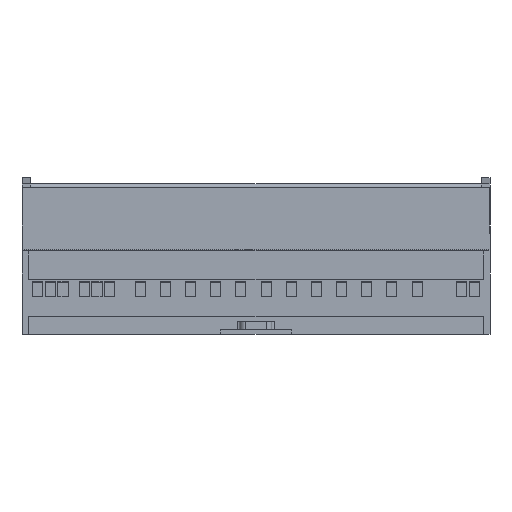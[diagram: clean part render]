
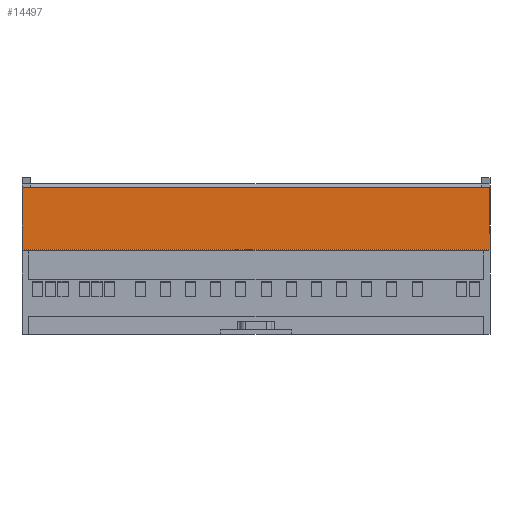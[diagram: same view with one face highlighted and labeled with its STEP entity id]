
A CAD part, front view. The second image highlights one B-rep face of the part: STEP entity #14497.
In plain terms, the highlighted planar face has unit normal (0, -1, 0).
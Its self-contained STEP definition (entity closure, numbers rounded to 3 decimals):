
#1480 = DIRECTION ( 'NONE',  ( -1., 0., 0. ) ) ;
#2091 = EDGE_CURVE ( 'NONE', #26464, #83997, #78051, .T. ) ;
#2145 = AXIS2_PLACEMENT_3D ( 'NONE', #89584, #47309, #5085 ) ;
#3603 = VERTEX_POINT ( 'NONE', #60115 ) ;
#5085 = DIRECTION ( 'NONE',  ( 0., 0., -1. ) ) ;
#6556 = FACE_OUTER_BOUND ( 'NONE', #68031, .T. ) ;
#9799 = CARTESIAN_POINT ( 'NONE',  ( -94.978, -24.622, 210.8 ) ) ;
#14497 = ADVANCED_FACE ( 'NONE', ( #6556 ), #61171, .T. ) ;
#20909 = CARTESIAN_POINT ( 'NONE',  ( -94.978, -24.622, 235.3 ) ) ;
#26133 = VERTEX_POINT ( 'NONE', #20909 ) ;
#26464 = VERTEX_POINT ( 'NONE', #27908 ) ;
#27908 = CARTESIAN_POINT ( 'NONE',  ( 91.022, -24.622, 210.8 ) ) ;
#28450 = ORIENTED_EDGE ( 'NONE', *, *, #2091, .T. ) ;
#36111 = ORIENTED_EDGE ( 'NONE', *, *, #54696, .T. ) ;
#38313 = VECTOR ( 'NONE', #62090, 1000. ) ;
#41966 = ORIENTED_EDGE ( 'NONE', *, *, #47295, .T. ) ;
#43756 = LINE ( 'NONE', #9799, #81263 ) ;
#44918 = ORIENTED_EDGE ( 'NONE', *, *, #68491, .T. ) ;
#47295 = EDGE_CURVE ( 'NONE', #3603, #26464, #43756, .T. ) ;
#47309 = DIRECTION ( 'NONE',  ( 0., -1., 0. ) ) ;
#49433 = LINE ( 'NONE', #57317, #84791 ) ;
#52014 = DIRECTION ( 'NONE',  ( 1., 0., 0. ) ) ;
#53055 = LINE ( 'NONE', #78860, #88432 ) ;
#54696 = EDGE_CURVE ( 'NONE', #83997, #26133, #53055, .T. ) ;
#57317 = CARTESIAN_POINT ( 'NONE',  ( -94.978, -24.622, 235.3 ) ) ;
#60115 = CARTESIAN_POINT ( 'NONE',  ( -94.978, -24.622, 210.8 ) ) ;
#61171 = PLANE ( 'NONE',  #2145 ) ;
#62090 = DIRECTION ( 'NONE',  ( 0., 0., 1. ) ) ;
#64431 = DIRECTION ( 'NONE',  ( 0., 0., -1. ) ) ;
#68031 = EDGE_LOOP ( 'NONE', ( #44918, #41966, #28450, #36111 ) ) ;
#68491 = EDGE_CURVE ( 'NONE', #26133, #3603, #49433, .T. ) ;
#76272 = CARTESIAN_POINT ( 'NONE',  ( 91.022, -24.622, 235.3 ) ) ;
#78051 = LINE ( 'NONE', #76272, #38313 ) ;
#78860 = CARTESIAN_POINT ( 'NONE',  ( -94.978, -24.622, 235.3 ) ) ;
#81263 = VECTOR ( 'NONE', #52014, 1000. ) ;
#83997 = VERTEX_POINT ( 'NONE', #84014 ) ;
#84014 = CARTESIAN_POINT ( 'NONE',  ( 91.022, -24.622, 235.3 ) ) ;
#84791 = VECTOR ( 'NONE', #64431, 1000. ) ;
#88432 = VECTOR ( 'NONE', #1480, 1000. ) ;
#89584 = CARTESIAN_POINT ( 'NONE',  ( -94.978, -24.622, 210.8 ) ) ;
